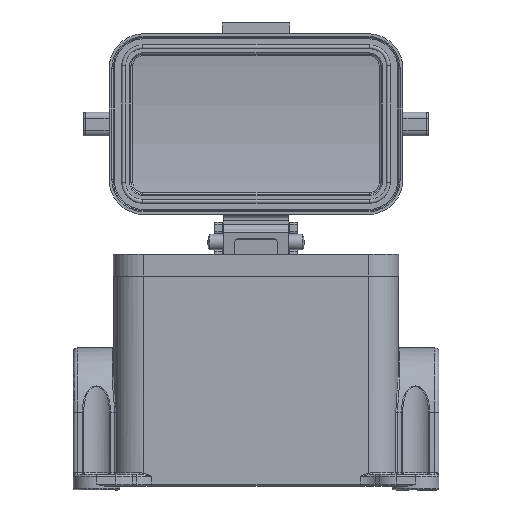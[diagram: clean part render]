
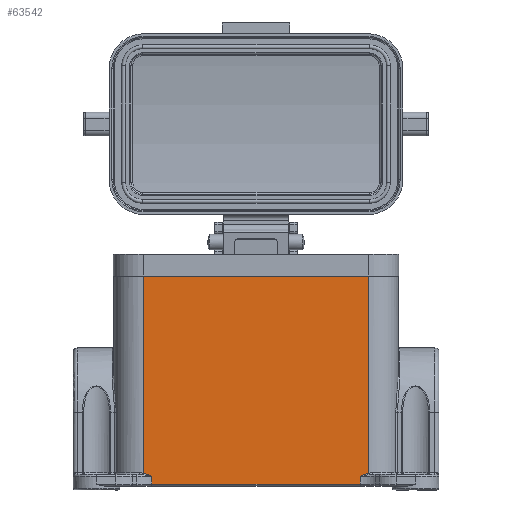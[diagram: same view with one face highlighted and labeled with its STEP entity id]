
A CAD part, front view. The second image highlights one B-rep face of the part: STEP entity #63542.
In plain terms, the highlighted planar face has unit normal (0, -1, 0).
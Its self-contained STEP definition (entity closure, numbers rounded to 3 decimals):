
#2282 = CARTESIAN_POINT ( 'NONE',  ( 26.953, -21.5, -29.202 ) ) ;
#2455 = CARTESIAN_POINT ( 'NONE',  ( -26.737, -21.5, -29.3 ) ) ;
#3169 = DIRECTION ( 'NONE',  ( 0., 0., 1. ) ) ;
#3899 = CARTESIAN_POINT ( 'NONE',  ( 29., -21.5, -28.441 ) ) ;
#4521 = CARTESIAN_POINT ( 'NONE',  ( 27.951, -21.5, -28.78 ) ) ;
#6312 = CARTESIAN_POINT ( 'NONE',  ( -27.863, -21.5, -28.816 ) ) ;
#6765 = CARTESIAN_POINT ( 'NONE',  ( -28.332, -21.5, -28.64 ) ) ;
#7219 = CARTESIAN_POINT ( 'NONE',  ( -27.895, -21.5, -28.803 ) ) ;
#11458 = CARTESIAN_POINT ( 'NONE',  ( -36.5, -21.5, -31.3 ) ) ;
#11906 = CARTESIAN_POINT ( 'NONE',  ( 27.816, -21.5, -28.834 ) ) ;
#12764 = ORIENTED_EDGE ( 'NONE', *, *, #91440, .T. ) ;
#13388 = PLANE ( 'NONE',  #14819 ) ;
#14582 = CARTESIAN_POINT ( 'NONE',  ( 28.098, -21.5, -28.724 ) ) ;
#14819 = AXIS2_PLACEMENT_3D ( 'NONE', #44479, #45357, #128094 ) ;
#15933 = CARTESIAN_POINT ( 'NONE',  ( -28.196, -21.5, -28.687 ) ) ;
#16517 = VECTOR ( 'NONE', #61597, 1000. ) ;
#16844 = CARTESIAN_POINT ( 'NONE',  ( -28.44, -21.5, -28.604 ) ) ;
#17033 = LINE ( 'NONE', #130220, #46416 ) ;
#17297 = CARTESIAN_POINT ( 'NONE',  ( -26.737, -21.5, -29.3 ) ) ;
#17744 = ORIENTED_EDGE ( 'NONE', *, *, #123985, .T. ) ;
#18233 = LINE ( 'NONE', #11458, #72237 ) ;
#21967 = CARTESIAN_POINT ( 'NONE',  ( 27.255, -21.5, -29.068 ) ) ;
#24482 = CARTESIAN_POINT ( 'NONE',  ( -29., -21.5, -28.441 ) ) ;
#25098 = CARTESIAN_POINT ( 'NONE',  ( 28.803, -21.5, -28.49 ) ) ;
#25514 = DIRECTION ( 'NONE',  ( -1., 0., 0. ) ) ;
#28777 = ORIENTED_EDGE ( 'NONE', *, *, #123866, .T. ) ;
#33924 = ORIENTED_EDGE ( 'NONE', *, *, #48394, .T. ) ;
#34285 = CARTESIAN_POINT ( 'NONE',  ( 28.329, -21.5, -28.641 ) ) ;
#34481 = FACE_OUTER_BOUND ( 'NONE', #47632, .T. ) ;
#36423 = ORIENTED_EDGE ( 'NONE', *, *, #89928, .T. ) ;
#36582 = LINE ( 'NONE', #99066, #49560 ) ;
#37387 = EDGE_CURVE ( 'NONE', #94218, #133065, #51073, .T. ) ;
#37424 = CARTESIAN_POINT ( 'NONE',  ( -28.752, -21.5, -28.507 ) ) ;
#38302 = CARTESIAN_POINT ( 'NONE',  ( 26.737, -21.5, -29.3 ) ) ;
#38330 = CARTESIAN_POINT ( 'NONE',  ( -28.584, -21.5, -28.557 ) ) ;
#38778 = CARTESIAN_POINT ( 'NONE',  ( -27.344, -21.5, -29.031 ) ) ;
#38796 = CARTESIAN_POINT ( 'NONE',  ( -29., -21.5, -31.8 ) ) ;
#41255 = VECTOR ( 'NONE', #129607, 1000. ) ;
#44479 = CARTESIAN_POINT ( 'NONE',  ( -36.5, -21.5, -31.8 ) ) ;
#45357 = DIRECTION ( 'NONE',  ( 0., -1., 0. ) ) ;
#46416 = VECTOR ( 'NONE', #3169, 1000. ) ;
#47632 = EDGE_LOOP ( 'NONE', ( #17744, #121579, #12764, #101700, #52441, #36423, #33924, #28777 ) ) ;
#47933 = CARTESIAN_POINT ( 'NONE',  ( -28.513, -21.5, -28.58 ) ) ;
#48394 = EDGE_CURVE ( 'NONE', #95824, #126734, #110250, .T. ) ;
#48820 = CARTESIAN_POINT ( 'NONE',  ( -27.093, -21.5, -29.139 ) ) ;
#49560 = VECTOR ( 'NONE', #25514, 1000. ) ;
#50787 = B_SPLINE_CURVE_WITH_KNOTS ( 'NONE', 3,
 ( #84542, #2282, #21967, #116115, #74493, #53479, #11906, #108743, #66231, #57075, #4521, #14582, #77187, #34285, #98662, #56628, #87693, #25098, #129318 ),
 .UNSPECIFIED., .F., .F.,
 ( 4, 1, 1, 1, 1, 1, 2, 2, 1, 1, 2, 2, 4 ),
 ( 0., 0.25, 0.375, 0.438, 0.469, 0.484, 0.492, 0.5, 0.625, 0.688, 0.719, 0.75, 1. ),
 .UNSPECIFIED. ) ;
#50953 = B_SPLINE_CURVE_WITH_KNOTS ( 'NONE', 3,
 ( #97300, #110553, #37424, #38330, #47933, #100014, #16844, #6765, #15933, #131117, #110094, #7219, #111445, #6312, #121038, #120592, #132471, #58412, #131569, #38778, #79876, #122381, #48820, #121935, #17297 ),
 .UNSPECIFIED., .F., .F.,
 ( 4, 1, 1, 2, 2, 1, 1, 1, 1, 2, 2, 1, 1, 1, 2, 2, 4 ),
 ( 0., 0.125, 0.187, 0.219, 0.25, 0.375, 0.437, 0.469, 0.484, 0.492, 0.5, 0.625, 0.687, 0.719, 0.734, 0.75, 1. ),
 .UNSPECIFIED. ) ;
#51073 = LINE ( 'NONE', #100313, #41255 ) ;
#52441 = ORIENTED_EDGE ( 'NONE', *, *, #37387, .T. ) ;
#53479 = CARTESIAN_POINT ( 'NONE',  ( 27.781, -21.5, -28.848 ) ) ;
#54263 = VERTEX_POINT ( 'NONE', #24482 ) ;
#54396 = DIRECTION ( 'NONE',  ( 1., 0., 0. ) ) ;
#56628 = CARTESIAN_POINT ( 'NONE',  ( 28.395, -21.5, -28.619 ) ) ;
#57075 = CARTESIAN_POINT ( 'NONE',  ( 27.843, -21.5, -28.823 ) ) ;
#58412 = CARTESIAN_POINT ( 'NONE',  ( -27.474, -21.5, -28.976 ) ) ;
#61597 = DIRECTION ( 'NONE',  ( 0., 0., -1. ) ) ;
#63542 = ADVANCED_FACE ( 'NONE', ( #34481 ), #13388, .T. ) ;
#65973 = CARTESIAN_POINT ( 'NONE',  ( 26.737, -21.5, -31.8 ) ) ;
#66231 = CARTESIAN_POINT ( 'NONE',  ( 27.84, -21.5, -28.824 ) ) ;
#72237 = VECTOR ( 'NONE', #54396, 1000. ) ;
#72406 = CARTESIAN_POINT ( 'NONE',  ( -29., -21.5, 22.2 ) ) ;
#74493 = CARTESIAN_POINT ( 'NONE',  ( 27.711, -21.5, -28.876 ) ) ;
#77187 = CARTESIAN_POINT ( 'NONE',  ( 28.261, -21.5, -28.665 ) ) ;
#78641 = LINE ( 'NONE', #38796, #16517 ) ;
#79876 = CARTESIAN_POINT ( 'NONE',  ( -27.318, -21.5, -29.043 ) ) ;
#81110 = CARTESIAN_POINT ( 'NONE',  ( -26.737, -21.5, -31.3 ) ) ;
#82419 = VECTOR ( 'NONE', #118992, 1000. ) ;
#84542 = CARTESIAN_POINT ( 'NONE',  ( 26.737, -21.5, -29.3 ) ) ;
#87693 = CARTESIAN_POINT ( 'NONE',  ( 28.609, -21.5, -28.547 ) ) ;
#89928 = EDGE_CURVE ( 'NONE', #133065, #95824, #18233, .T. ) ;
#91141 = VERTEX_POINT ( 'NONE', #109201 ) ;
#91440 = EDGE_CURVE ( 'NONE', #133328, #54263, #78641, .T. ) ;
#94218 = VERTEX_POINT ( 'NONE', #2455 ) ;
#95824 = VERTEX_POINT ( 'NONE', #109804 ) ;
#97300 = CARTESIAN_POINT ( 'NONE',  ( -29., -21.5, -28.441 ) ) ;
#97415 = EDGE_CURVE ( 'NONE', #54263, #94218, #50953, .T. ) ;
#98662 = CARTESIAN_POINT ( 'NONE',  ( 28.374, -21.5, -28.626 ) ) ;
#99066 = CARTESIAN_POINT ( 'NONE',  ( -36.5, -21.5, 22.2 ) ) ;
#100014 = CARTESIAN_POINT ( 'NONE',  ( -28.465, -21.5, -28.595 ) ) ;
#100313 = CARTESIAN_POINT ( 'NONE',  ( -26.737, -21.5, -31.8 ) ) ;
#101700 = ORIENTED_EDGE ( 'NONE', *, *, #97415, .T. ) ;
#108743 = CARTESIAN_POINT ( 'NONE',  ( 27.83, -21.5, -28.828 ) ) ;
#109201 = CARTESIAN_POINT ( 'NONE',  ( 29., -21.5, 22.2 ) ) ;
#109804 = CARTESIAN_POINT ( 'NONE',  ( 26.737, -21.5, -31.3 ) ) ;
#110094 = CARTESIAN_POINT ( 'NONE',  ( -27.939, -21.5, -28.785 ) ) ;
#110250 = LINE ( 'NONE', #65973, #82419 ) ;
#110553 = CARTESIAN_POINT ( 'NONE',  ( -28.9, -21.5, -28.466 ) ) ;
#111445 = CARTESIAN_POINT ( 'NONE',  ( -27.875, -21.5, -28.81 ) ) ;
#116115 = CARTESIAN_POINT ( 'NONE',  ( 27.566, -21.5, -28.936 ) ) ;
#118992 = DIRECTION ( 'NONE',  ( 0., 0., 1. ) ) ;
#120592 = CARTESIAN_POINT ( 'NONE',  ( -27.772, -21.5, -28.852 ) ) ;
#121038 = CARTESIAN_POINT ( 'NONE',  ( -27.855, -21.5, -28.819 ) ) ;
#121579 = ORIENTED_EDGE ( 'NONE', *, *, #126445, .T. ) ;
#121935 = CARTESIAN_POINT ( 'NONE',  ( -26.909, -21.5, -29.221 ) ) ;
#122381 = CARTESIAN_POINT ( 'NONE',  ( -27.303, -21.5, -29.049 ) ) ;
#123866 = EDGE_CURVE ( 'NONE', #126734, #135188, #50787, .T. ) ;
#123985 = EDGE_CURVE ( 'NONE', #135188, #91141, #17033, .T. ) ;
#126445 = EDGE_CURVE ( 'NONE', #91141, #133328, #36582, .T. ) ;
#126734 = VERTEX_POINT ( 'NONE', #38302 ) ;
#128094 = DIRECTION ( 'NONE',  ( 1., 0., 0. ) ) ;
#129318 = CARTESIAN_POINT ( 'NONE',  ( 29., -21.5, -28.441 ) ) ;
#129607 = DIRECTION ( 'NONE',  ( 0., 0., -1. ) ) ;
#130220 = CARTESIAN_POINT ( 'NONE',  ( 29., -21.5, -31.8 ) ) ;
#131117 = CARTESIAN_POINT ( 'NONE',  ( -28.027, -21.5, -28.751 ) ) ;
#131569 = CARTESIAN_POINT ( 'NONE',  ( -27.384, -21.5, -29.014 ) ) ;
#132471 = CARTESIAN_POINT ( 'NONE',  ( -27.643, -21.5, -28.904 ) ) ;
#133065 = VERTEX_POINT ( 'NONE', #81110 ) ;
#133328 = VERTEX_POINT ( 'NONE', #72406 ) ;
#135188 = VERTEX_POINT ( 'NONE', #3899 ) ;
